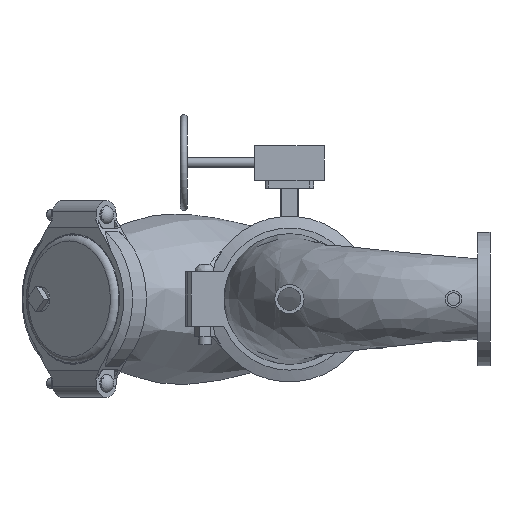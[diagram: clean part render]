
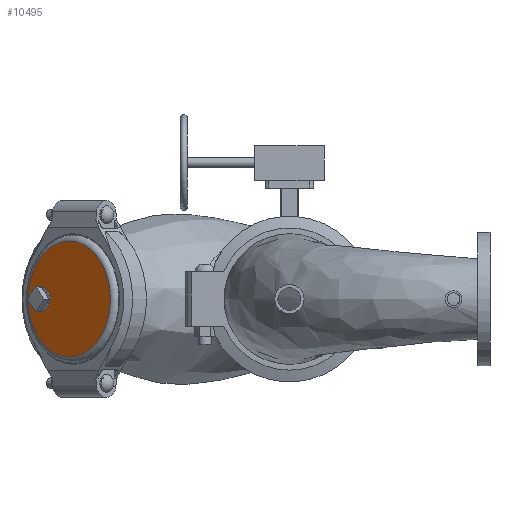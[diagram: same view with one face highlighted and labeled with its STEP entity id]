
A CAD part, front view. The second image highlights one B-rep face of the part: STEP entity #10495.
In plain terms, the highlighted planar face has unit normal (-0.707, -0.707, 0) as drawn and (1, 0, 0) by its records, which use the part's own axes.
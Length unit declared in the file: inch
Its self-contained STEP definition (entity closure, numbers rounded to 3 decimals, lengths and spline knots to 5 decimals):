
#2024=FACE_BOUND('',#2998,.T.);
#2374=FACE_OUTER_BOUND('',#2997,.T.);
#2997=EDGE_LOOP('',(#7768,#7769));
#2998=EDGE_LOOP('',(#7770));
#3616=CIRCLE('',#11608,1.);
#3624=CIRCLE('',#11619,4.781);
#3625=CIRCLE('',#11620,4.781);
#4418=VERTEX_POINT('',#21373);
#4426=VERTEX_POINT('',#21394);
#4427=VERTEX_POINT('',#21395);
#5627=EDGE_CURVE('',#4418,#4418,#3616,.T.);
#5636=EDGE_CURVE('',#4426,#4427,#3624,.T.);
#5637=EDGE_CURVE('',#4427,#4426,#3625,.T.);
#7768=ORIENTED_EDGE('',*,*,#5636,.T.);
#7769=ORIENTED_EDGE('',*,*,#5637,.T.);
#7770=ORIENTED_EDGE('',*,*,#5627,.T.);
#9461=PLANE('',#11622);
#10495=ADVANCED_FACE('',(#2374,#2024),#9461,.T.);
#11608=AXIS2_PLACEMENT_3D('',#21375,#13660,#13661);
#11619=AXIS2_PLACEMENT_3D('',#21396,#13683,#13684);
#11620=AXIS2_PLACEMENT_3D('',#21397,#13685,#13686);
#11622=AXIS2_PLACEMENT_3D('',#21399,#13689,#13690);
#13660=DIRECTION('center_axis',(-1.,0.,0.));
#13661=DIRECTION('ref_axis',(0.,0.,1.));
#13683=DIRECTION('center_axis',(1.,0.,0.));
#13684=DIRECTION('ref_axis',(0.,0.,-1.));
#13685=DIRECTION('center_axis',(1.,0.,0.));
#13686=DIRECTION('ref_axis',(0.,0.,-1.));
#13689=DIRECTION('center_axis',(1.,0.,0.));
#13690=DIRECTION('ref_axis',(0.,0.,-1.));
#21373=CARTESIAN_POINT('',(1.68,3.25,-1.));
#21375=CARTESIAN_POINT('Origin',(1.68,3.25,0.));
#21394=CARTESIAN_POINT('',(1.68,4.781,0.));
#21395=CARTESIAN_POINT('',(1.68,0.,4.781));
#21396=CARTESIAN_POINT('Origin',(1.68,0.,0.));
#21397=CARTESIAN_POINT('Origin',(1.68,0.,0.));
#21399=CARTESIAN_POINT('Origin',(1.68,0.,0.));
